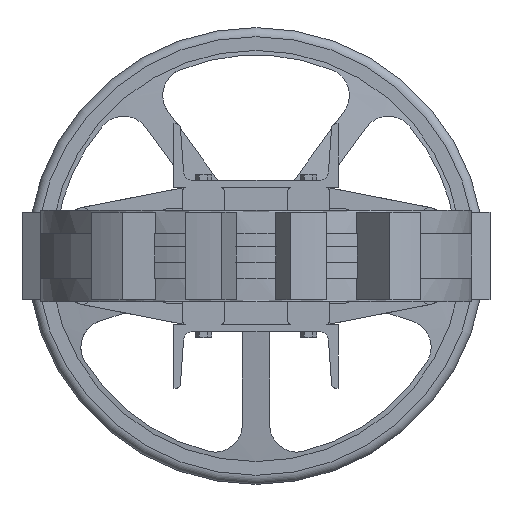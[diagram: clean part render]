
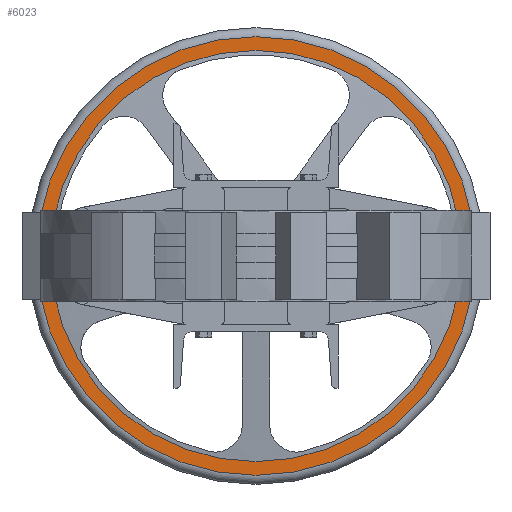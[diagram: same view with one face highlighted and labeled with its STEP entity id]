
A CAD part, front view. The second image highlights one B-rep face of the part: STEP entity #6023.
In plain terms, the highlighted planar face has unit normal (0, -1, 0).
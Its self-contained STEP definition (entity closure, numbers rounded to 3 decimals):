
#5890 = EDGE_LOOP ( 'NONE', ( #5895, #5896 ) ) ;
#5895 = ORIENTED_EDGE ( 'NONE', *, *, #33601, .F. ) ;
#5896 = ORIENTED_EDGE ( 'NONE', *, *, #6015, .F. ) ;
#5897 = EDGE_LOOP ( 'NONE', ( #5900, #5901 ) ) ;
#5900 = ORIENTED_EDGE ( 'NONE', *, *, #12356, .T. ) ;
#5901 = ORIENTED_EDGE ( 'NONE', *, *, #33591, .T. ) ;
#6015 = EDGE_CURVE ( 'NONE', #33604, #33606, #25036, .T. ) ;
#6023 = ADVANCED_FACE ( 'NONE', ( #25031, #25030 ), #25029, .F. ) ;
#12356 = EDGE_CURVE ( 'NONE', #12363, #12847, #30598, .T. ) ;
#12363 = VERTEX_POINT ( 'NONE', #30589 ) ;
#12847 = VERTEX_POINT ( 'NONE', #30670 ) ;
#20226 = CARTESIAN_POINT ( 'NONE',  ( 0., 999., 0. ) ) ;
#20227 = AXIS2_PLACEMENT_3D ( 'NONE', #20226, #20272, #20271 ) ;
#20230 = CIRCLE ( 'NONE', #20227, 225. ) ;
#20249 = CARTESIAN_POINT ( 'NONE',  ( -240., 999., 0. ) ) ;
#20250 = CARTESIAN_POINT ( 'NONE',  ( 240., 999., 0. ) ) ;
#20252 = DIRECTION ( 'NONE',  ( -1., 0., 0. ) ) ;
#20253 = DIRECTION ( 'NONE',  ( 0., 1., 0. ) ) ;
#20254 = CARTESIAN_POINT ( 'NONE',  ( 0., 999., 0. ) ) ;
#20255 = AXIS2_PLACEMENT_3D ( 'NONE', #20254, #20253, #20252 ) ;
#20259 = CIRCLE ( 'NONE', #20255, 240. ) ;
#20271 = DIRECTION ( 'NONE',  ( -1., 0., 0. ) ) ;
#20272 = DIRECTION ( 'NONE',  ( 0., 1., 0. ) ) ;
#25024 = DIRECTION ( 'NONE',  ( -1., 0., 0. ) ) ;
#25025 = DIRECTION ( 'NONE',  ( 0., 1., 0. ) ) ;
#25026 = CARTESIAN_POINT ( 'NONE',  ( 240., 999., 0. ) ) ;
#25028 = AXIS2_PLACEMENT_3D ( 'NONE', #25026, #25025, #25024 ) ;
#25029 = PLANE ( 'NONE',  #25028 ) ;
#25030 = FACE_BOUND ( 'NONE', #5897, .T. ) ;
#25031 = FACE_OUTER_BOUND ( 'NONE', #5890, .T. ) ;
#25032 = DIRECTION ( 'NONE',  ( -1., 0., 0. ) ) ;
#25033 = DIRECTION ( 'NONE',  ( 0., 1., 0. ) ) ;
#25034 = CARTESIAN_POINT ( 'NONE',  ( 0., 999., 0. ) ) ;
#25035 = AXIS2_PLACEMENT_3D ( 'NONE', #25034, #25033, #25032 ) ;
#25036 = CIRCLE ( 'NONE', #25035, 240. ) ;
#30589 = CARTESIAN_POINT ( 'NONE',  ( -225., 999., 0. ) ) ;
#30591 = DIRECTION ( 'NONE',  ( -1., 0., 0. ) ) ;
#30592 = DIRECTION ( 'NONE',  ( 0., 1., 0. ) ) ;
#30594 = CARTESIAN_POINT ( 'NONE',  ( 0., 999., 0. ) ) ;
#30596 = AXIS2_PLACEMENT_3D ( 'NONE', #30594, #30592, #30591 ) ;
#30598 = CIRCLE ( 'NONE', #30596, 225. ) ;
#30670 = CARTESIAN_POINT ( 'NONE',  ( 225., 999., 0. ) ) ;
#33591 = EDGE_CURVE ( 'NONE', #12847, #12363, #20230, .T. ) ;
#33601 = EDGE_CURVE ( 'NONE', #33606, #33604, #20259, .T. ) ;
#33604 = VERTEX_POINT ( 'NONE', #20250 ) ;
#33606 = VERTEX_POINT ( 'NONE', #20249 ) ;
